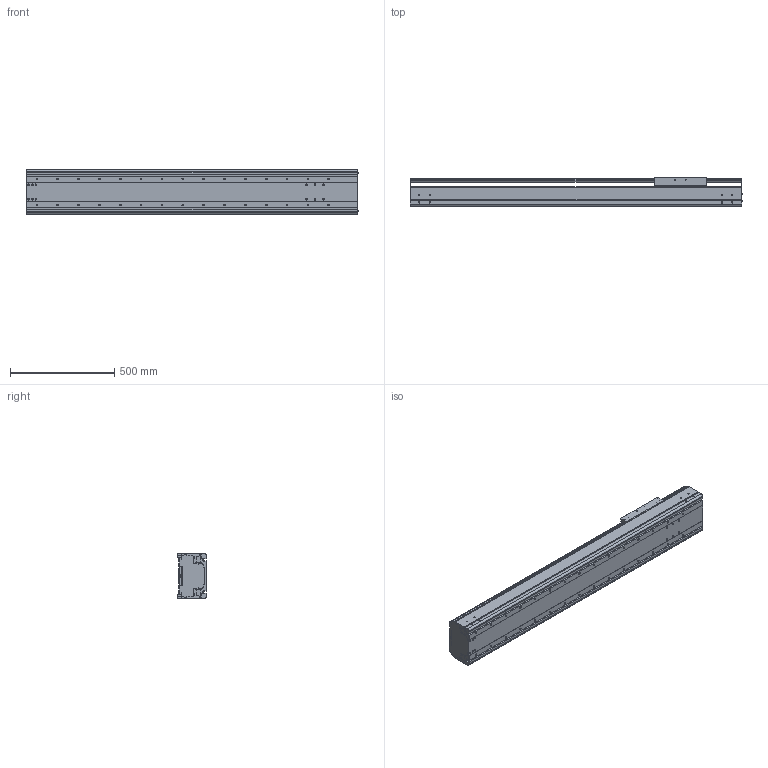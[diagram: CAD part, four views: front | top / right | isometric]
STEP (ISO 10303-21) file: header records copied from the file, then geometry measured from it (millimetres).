
FILE_DESCRIPTION((''),'2;1');
FILE_NAME('BE60J-ST-M_N-B0_IGS_PRT','2017-06-18T',(' '),(''),'PRO/ENGINEER BY PARAMETRIC TECHNOLOGY CORPORATION, 2015030','PRO/ENGINEER BY PARAMETRIC TECHNOLOGY CORPORATION, 2015030','');
FILE_SCHEMA(('CONFIG_CONTROL_DESIGN'));
Length unit declared in the file: millimetre
Products named in the file (1): BE60J-ST-M_N-B0_IGS_PRT
Bounding box: 1592.4 x 140 x 214 mm (x, y, z)
Volume: 12217936.7 mm3; surface area: 3352896.5 mm2
Topology: 2 solids, 118 shells, 1463 faces, 4114 edges, 2746 vertices
Faces by surface type: cylinder 758, plane 605, cone 52, sphere 24, torus 24
Entity records: 49385 total; most frequent: CARTESIAN_POINT 11086, DIRECTION 7986, ORIENTED_EDGE 7676, EDGE_CURVE 4066, AXIS2_PLACEMENT_3D 2972, VERTEX_POINT 2746, VECTOR 2042, LINE 2042
